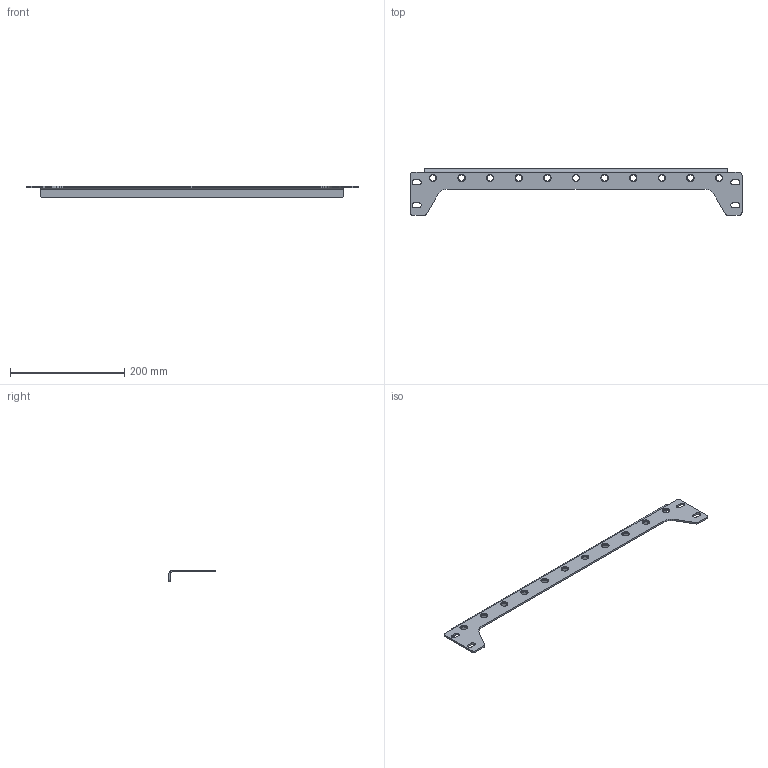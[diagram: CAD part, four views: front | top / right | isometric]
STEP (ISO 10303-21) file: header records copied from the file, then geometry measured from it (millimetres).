
FILE_DESCRIPTION (( 'STEP AP203' ), '1' );
FILE_NAME ('ORW-72.24.002 Ïåðåêëàäèíà.STEP', '2025-10-13T13:18:11', ( 'Àíäðåé' ), ( '' ), 'SwSTEP 2.0', 'SolidWorks 2025', '' );
FILE_SCHEMA (( 'CONFIG_CONTROL_DESIGN' ));
Length unit declared in the file: millimetre
Products named in the file (1): ORW-72.24.002 Перекладина
Bounding box: 580 x 81 x 20 mm (x, y, z)
Volume: 91336.9 mm3; surface area: 66612.5 mm2
Topology: 1 solids, 1 shells, 68 faces, 190 edges, 124 vertices
Faces by surface type: cylinder 31, plane 26, cone 11
Full cylindrical faces by diameter (mm): 10.9 x11
Entity records: 2129 total; most frequent: DIRECTION 368, CARTESIAN_POINT 339, ORIENTED_EDGE 314, EDGE_CURVE 157, AXIS2_PLACEMENT_3D 142, EDGE_LOOP 120, VERTEX_POINT 113, LINE 84
